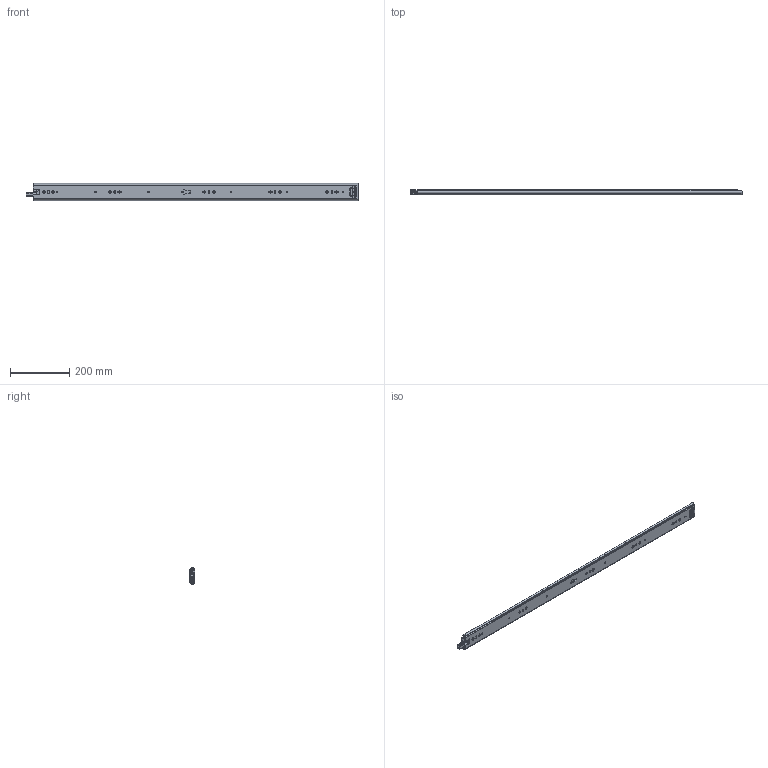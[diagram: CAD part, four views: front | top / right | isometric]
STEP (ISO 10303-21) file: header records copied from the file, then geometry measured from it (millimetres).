
FILE_DESCRIPTION((''),'2;1');
FILE_NAME('KP-57-01ZUZHUANGTU-44_ASM','2023-04-01T',('jishu015'),(''),'PRO/ENGINEER BY PARAMETRIC TECHNOLOGY CORPORATION, 2010280','PRO/ENGINEER BY PARAMETRIC TECHNOLOGY CORPORATION, 2010280','');
FILE_SCHEMA(('CONFIG_CONTROL_DESIGN'));
Products named in the file (22): KP-57-01WEIKE-18_____; 1057WEIJIAO_____; WAIKE____ASM; KP-57-01ZHONGGUI-18_____; ZHONGGUIPEIJIAN-11___; ZHONGGUISUOKOU-11___; KP-57-01ZHONGGUI-18______ASM; 1057XIAOZHUJIA_____; 1057-5-6GANZHU_____; 1057XIAOZHUJIA-14GE______ASM; KP-57-01NEIGUI-18_____; PJ-57-08___; DIAOPIAN-11___; 50XINSUOKOU-1___; TANHUANG___; 1053-3SBANJI122_; JIAO11_; KP-57-01NEIGUI-18______ASM; 1053ZHUTIAO-175_________; 53-5-6GANZHU_________; 1053ZHUTIAO-175MM____ASM; KP-57-01ZUZHUANGTU-44_ASM
Assembly tree (120 placements, depth 3):
  KP-57-01ZUZHUANGTU-44_ASM
    WAIKE____ASM
      KP-57-01WEIKE-18_____
      1057WEIJIAO_____
    KP-57-01ZHONGGUI-18______ASM
      KP-57-01ZHONGGUI-18_____
      ZHONGGUIPEIJIAN-11___
      ZHONGGUISUOKOU-11___
    1057XIAOZHUJIA-14GE______ASM
      1057XIAOZHUJIA_____
      1057-5-6GANZHU_____  x80
    KP-57-01NEIGUI-18______ASM
      KP-57-01NEIGUI-18_____
      PJ-57-08___
      DIAOPIAN-11___
      50XINSUOKOU-1___
      TANHUANG___
      1053-3SBANJI122_
      JIAO11_
    1053ZHUTIAO-175MM____ASM  x2
      1053ZHUTIAO-175_________
      53-5-6GANZHU_________
Bounding box: 1125.42 x 19 x 57.67 mm (x, y, z)
Volume: 484686 mm3; surface area: 529525.2 mm2
Topology: 137 solids, 137 shells, 3184 faces, 9220 edges, 5725 vertices
Faces by surface type: cylinder 1401, plane 1252, sphere 251, bspline 146, cone 86, torus 25, extrusion 23
Entity records: 101497 total; most frequent: CARTESIAN_POINT 24889, ORIENTED_EDGE 16220, DIRECTION 15807, EDGE_CURVE 8110, AXIS2_PLACEMENT_3D 5469, VERTEX_POINT 5233, VECTOR 4869, LINE 4846
